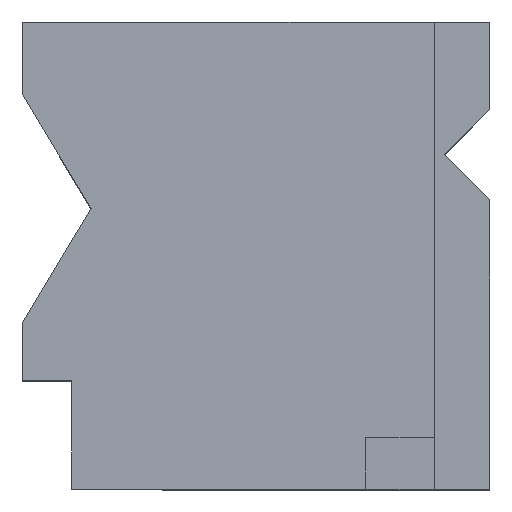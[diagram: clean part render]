
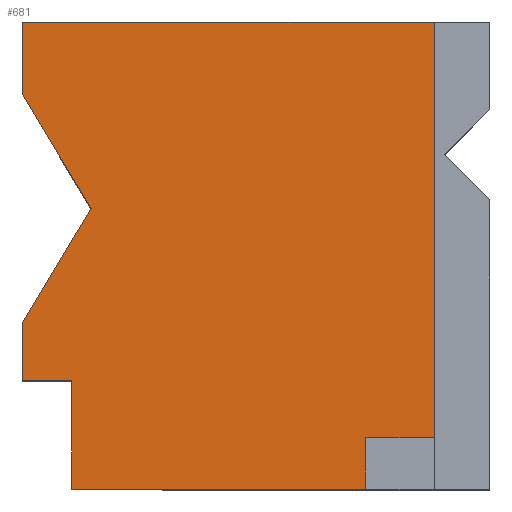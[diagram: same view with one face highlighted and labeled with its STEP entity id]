
A CAD part, top view. The second image highlights one B-rep face of the part: STEP entity #681.
In plain terms, the highlighted planar face has unit normal (0, 0, 1).
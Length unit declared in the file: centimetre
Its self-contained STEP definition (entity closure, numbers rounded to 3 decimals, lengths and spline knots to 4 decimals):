
#1 = ORIENTED_EDGE ( 'NONE', *, *, #462, .T. ) ;
#27 = VECTOR ( 'NONE', #598, 100. ) ;
#29 = FACE_OUTER_BOUND ( 'NONE', #337, .T. ) ;
#31 = EDGE_CURVE ( 'NONE', #647, #554, #796, .T. ) ;
#32 = LINE ( 'NONE', #379, #96 ) ;
#41 = VECTOR ( 'NONE', #445, 100. ) ;
#89 = LINE ( 'NONE', #359, #695 ) ;
#96 = VECTOR ( 'NONE', #707, 100. ) ;
#97 = PLANE ( 'NONE',  #128 ) ;
#102 = ORIENTED_EDGE ( 'NONE', *, *, #388, .T. ) ;
#111 = VERTEX_POINT ( 'NONE', #502 ) ;
#126 = VERTEX_POINT ( 'NONE', #268 ) ;
#128 = AXIS2_PLACEMENT_3D ( 'NONE', #782, #651, #301 ) ;
#141 = ORIENTED_EDGE ( 'NONE', *, *, #31, .T. ) ;
#158 = CARTESIAN_POINT ( 'NONE',  ( 0., 845.8099, 1000. ) ) ;
#167 = ORIENTED_EDGE ( 'NONE', *, *, #636, .F. ) ;
#173 = EDGE_CURVE ( 'NONE', #525, #389, #32, .T. ) ;
#208 = EDGE_CURVE ( 'NONE', #554, #750, #506, .T. ) ;
#217 = DIRECTION ( 'NONE',  ( 0., -1., 0. ) ) ;
#219 = EDGE_CURVE ( 'NONE', #750, #604, #590, .T. ) ;
#228 = CARTESIAN_POINT ( 'NONE',  ( 0., 1000., 1000. ) ) ;
#243 = CARTESIAN_POINT ( 'NONE',  ( 881.693, 110.2869, 1000. ) ) ;
#250 = VECTOR ( 'NONE', #848, 100. ) ;
#257 = CARTESIAN_POINT ( 'NONE',  ( 0., 1000., 1000. ) ) ;
#268 = CARTESIAN_POINT ( 'NONE',  ( 105.2481, 0., 1000. ) ) ;
#274 = CARTESIAN_POINT ( 'NONE',  ( 146.9213, 601.1901, 1000. ) ) ;
#289 = VECTOR ( 'NONE', #217, 100. ) ;
#301 = DIRECTION ( 'NONE',  ( 1., 0., 0. ) ) ;
#304 = ORIENTED_EDGE ( 'NONE', *, *, #208, .T. ) ;
#311 = DIRECTION ( 'NONE',  ( 1., 0., 0. ) ) ;
#312 = CARTESIAN_POINT ( 'NONE',  ( 0., 232.2958, 1000. ) ) ;
#337 = EDGE_LOOP ( 'NONE', ( #692, #669, #621, #141, #304, #602, #825, #1, #726, #167, #102 ) ) ;
#345 = LINE ( 'NONE', #548, #289 ) ;
#359 = CARTESIAN_POINT ( 'NONE',  ( 0., 0., 1000. ) ) ;
#360 = CARTESIAN_POINT ( 'NONE',  ( 734.7706, 110.2869, 1000. ) ) ;
#379 = CARTESIAN_POINT ( 'NONE',  ( 881.693, 1000., 1000. ) ) ;
#384 = VERTEX_POINT ( 'NONE', #228 ) ;
#388 = EDGE_CURVE ( 'NONE', #534, #389, #649, .T. ) ;
#389 = VERTEX_POINT ( 'NONE', #243 ) ;
#397 = CARTESIAN_POINT ( 'NONE',  ( 0., 356.5702, 1000. ) ) ;
#431 = CARTESIAN_POINT ( 'NONE',  ( 734.7706, 110.2869, 1000. ) ) ;
#442 = LINE ( 'NONE', #706, #865 ) ;
#445 = DIRECTION ( 'NONE',  ( 0., -1., 0. ) ) ;
#456 = DIRECTION ( 'NONE',  ( 0., -1., 0. ) ) ;
#457 = VECTOR ( 'NONE', #771, 100. ) ;
#462 = EDGE_CURVE ( 'NONE', #111, #126, #699, .T. ) ;
#495 = VECTOR ( 'NONE', #456, 100. ) ;
#497 = EDGE_CURVE ( 'NONE', #384, #647, #345, .T. ) ;
#502 = CARTESIAN_POINT ( 'NONE',  ( 105.2481, 232.2958, 1000. ) ) ;
#506 = LINE ( 'NONE', #579, #842 ) ;
#509 = CARTESIAN_POINT ( 'NONE',  ( 0., 232.2958, 1000. ) ) ;
#510 = DIRECTION ( 'NONE',  ( -0.515, -0.857, 0. ) ) ;
#519 = CARTESIAN_POINT ( 'NONE',  ( 146.9213, 601.1901, 1000. ) ) ;
#525 = VERTEX_POINT ( 'NONE', #688 ) ;
#527 = CARTESIAN_POINT ( 'NONE',  ( 734.7706, 0., 1000. ) ) ;
#534 = VERTEX_POINT ( 'NONE', #431 ) ;
#548 = CARTESIAN_POINT ( 'NONE',  ( 0., 1000., 1000. ) ) ;
#554 = VERTEX_POINT ( 'NONE', #274 ) ;
#566 = VECTOR ( 'NONE', #311, 100. ) ;
#568 = EDGE_CURVE ( 'NONE', #525, #384, #752, .T. ) ;
#579 = CARTESIAN_POINT ( 'NONE',  ( 0., 356.5702, 1000. ) ) ;
#587 = EDGE_CURVE ( 'NONE', #111, #604, #717, .T. ) ;
#590 = LINE ( 'NONE', #850, #495 ) ;
#598 = DIRECTION ( 'NONE',  ( 0.515, -0.857, 0. ) ) ;
#602 = ORIENTED_EDGE ( 'NONE', *, *, #219, .T. ) ;
#604 = VERTEX_POINT ( 'NONE', #312 ) ;
#621 = ORIENTED_EDGE ( 'NONE', *, *, #497, .T. ) ;
#636 = EDGE_CURVE ( 'NONE', #534, #715, #442, .T. ) ;
#647 = VERTEX_POINT ( 'NONE', #158 ) ;
#649 = LINE ( 'NONE', #360, #566 ) ;
#651 = DIRECTION ( 'NONE',  ( 0., 0., 1. ) ) ;
#669 = ORIENTED_EDGE ( 'NONE', *, *, #568, .T. ) ;
#681 = ADVANCED_FACE ( 'NONE', ( #29 ), #97, .T. ) ;
#688 = CARTESIAN_POINT ( 'NONE',  ( 881.693, 1000., 1000. ) ) ;
#692 = ORIENTED_EDGE ( 'NONE', *, *, #173, .F. ) ;
#695 = VECTOR ( 'NONE', #761, 100. ) ;
#699 = LINE ( 'NONE', #774, #41 ) ;
#706 = CARTESIAN_POINT ( 'NONE',  ( 734.7706, 0., 1000. ) ) ;
#707 = DIRECTION ( 'NONE',  ( 0., -1., 0. ) ) ;
#715 = VERTEX_POINT ( 'NONE', #527 ) ;
#717 = LINE ( 'NONE', #509, #457 ) ;
#726 = ORIENTED_EDGE ( 'NONE', *, *, #795, .T. ) ;
#750 = VERTEX_POINT ( 'NONE', #397 ) ;
#752 = LINE ( 'NONE', #257, #250 ) ;
#761 = DIRECTION ( 'NONE',  ( 1., 0., 0. ) ) ;
#771 = DIRECTION ( 'NONE',  ( -1., 0., 0. ) ) ;
#774 = CARTESIAN_POINT ( 'NONE',  ( 105.2481, 232.2958, 1000. ) ) ;
#777 = DIRECTION ( 'NONE',  ( 0., -1., 0. ) ) ;
#782 = CARTESIAN_POINT ( 'NONE',  ( 0., 0., 1000. ) ) ;
#795 = EDGE_CURVE ( 'NONE', #126, #715, #89, .T. ) ;
#796 = LINE ( 'NONE', #519, #27 ) ;
#825 = ORIENTED_EDGE ( 'NONE', *, *, #587, .F. ) ;
#842 = VECTOR ( 'NONE', #510, 100. ) ;
#848 = DIRECTION ( 'NONE',  ( -1., 0., 0. ) ) ;
#850 = CARTESIAN_POINT ( 'NONE',  ( 0., 1000., 1000. ) ) ;
#865 = VECTOR ( 'NONE', #777, 100. ) ;
